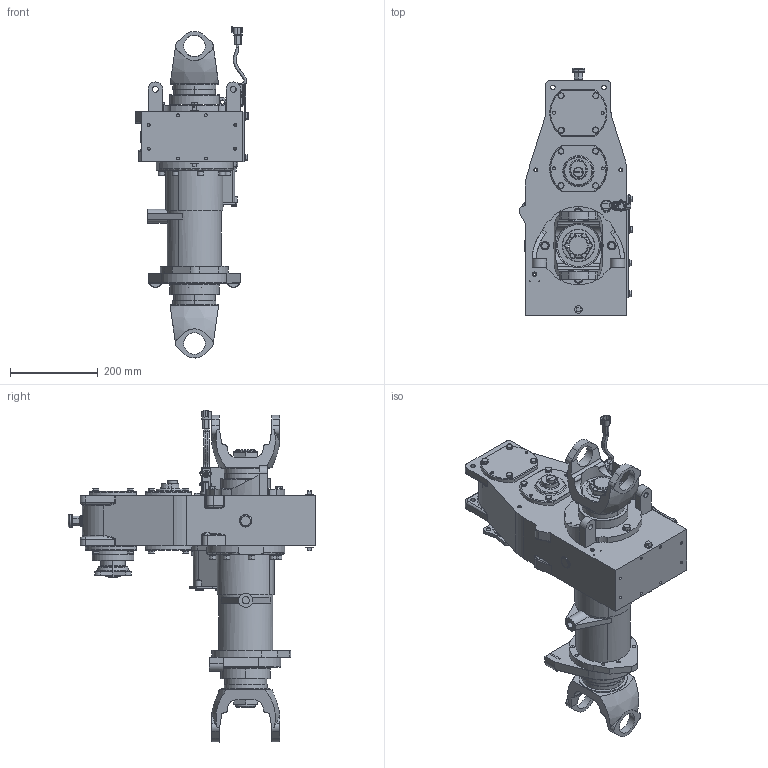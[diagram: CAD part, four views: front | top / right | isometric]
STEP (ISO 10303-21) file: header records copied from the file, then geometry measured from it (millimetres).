
FILE_DESCRIPTION((''),'2;1');
FILE_NAME('TP00707','2020-04-20T',('gregfield'),(''),'PRO/ENGINEER BY PARAMETRIC TECHNOLOGY CORPORATION, 2013150','PRO/ENGINEER BY PARAMETRIC TECHNOLOGY CORPORATION, 2013150','');
FILE_SCHEMA(('CONFIG_CONTROL_DESIGN'));
Products named in the file (1): TP00707
Bounding box: 258.84 x 564.15 x 756.3 mm (x, y, z)
Surface area: 948086.8 mm2 (no closed solid volume)
Topology: 0 solids, 132 shells, 1245 faces, 4403 edges, 3229 vertices
Faces by surface type: plane 548, cylinder 335, cone 233, torus 64, bspline 55, sphere 8, extrusion 2
Entity records: 59378 total; most frequent: CARTESIAN_POINT 24399, ORIENTED_EDGE 6696, DIRECTION 6472, EDGE_CURVE 4397, VERTEX_POINT 3229, AXIS2_PLACEMENT_3D 2310, VECTOR 1852, LINE 1850
